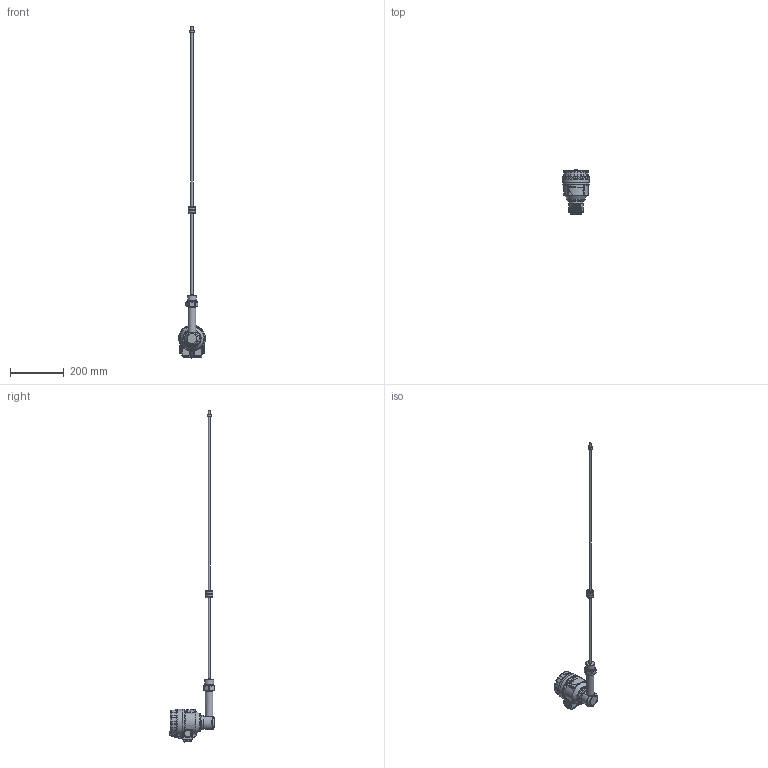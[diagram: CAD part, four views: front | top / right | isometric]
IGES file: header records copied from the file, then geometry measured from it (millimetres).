
Global section: file name: M_RN_Bszer_1,5col; native system: Autodesk Inventor 2015; preprocessor: unknown; author: aantal; date: 20150306.112408; units: millimetre
Bounding box: 98.97 x 169.61 x 1236.86 mm (x, y, z)
Volume: 1138035.9 mm3; surface area: 155227.8 mm2
Topology: 18 solids, 20 shells, 1135 faces, 2777 edges, 1686 vertices
Faces by surface type: bspline 1135
